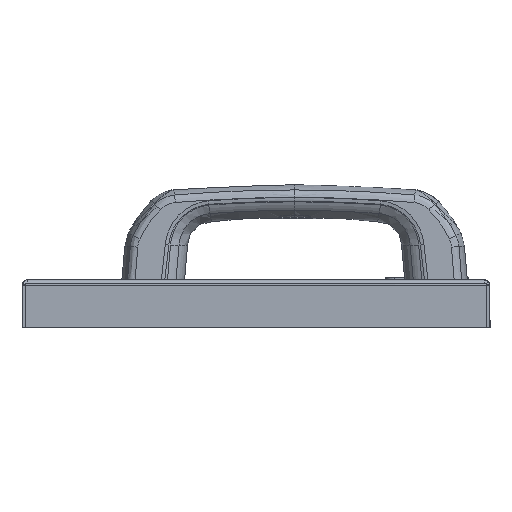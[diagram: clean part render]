
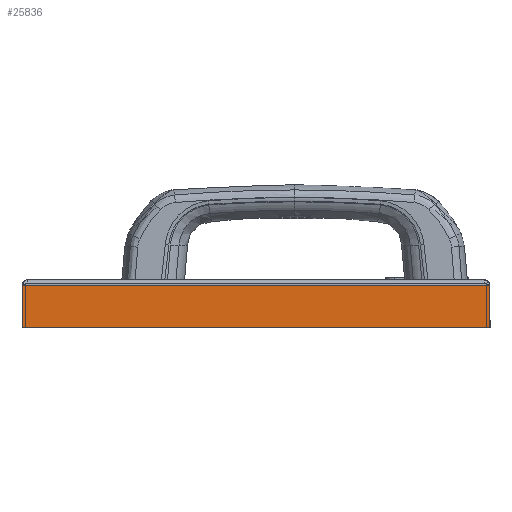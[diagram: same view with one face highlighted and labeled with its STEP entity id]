
A CAD part, left-side view. The second image highlights one B-rep face of the part: STEP entity #25836.
In plain terms, the highlighted planar face has unit normal (-1, 0, 0).
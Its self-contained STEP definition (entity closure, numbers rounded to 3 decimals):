
#21281=CARTESIAN_POINT(' ',(0.,197.,-2.3));
#21282=VERTEX_POINT(' ',#21281);
#21821=CARTESIAN_POINT(' ',(0.,197.,-2.3));
#21826=DIRECTION(' ',(0.,-1.,0.));
#21831=VECTOR(' ',#21826,1.);
#21836=LINE('',#21821,#21831);
#21841=CARTESIAN_POINT(' ',(0.,0.,-2.3));
#21842=VERTEX_POINT(' ',#21841);
#21846=EDGE_CURVE(' ',#21282,#21842,#21836,.T.);
#24436=CARTESIAN_POINT(' ',(0.,197.,-20.));
#24441=DIRECTION(' ',(0.,0.,1.));
#24446=VECTOR(' ',#24441,1.);
#24451=LINE('',#24436,#24446);
#24456=CARTESIAN_POINT(' ',(0.,197.,-20.));
#24457=VERTEX_POINT(' ',#24456);
#24461=EDGE_CURVE(' ',#24457,#21282,#24451,.T.);
#25726=DIRECTION(' ',(-1.,-0.,-0.));
#25731=CARTESIAN_POINT(' ',(0.,0.,-2.3));
#25736=DIRECTION(' ',(-0.,1.,0.));
#25741=AXIS2_PLACEMENT_3D(' ',#25731,#25726,#25736);
#25746=PLANE('NONE',#25741);
#25751=CARTESIAN_POINT(' ',(0.,0.,-20.));
#25756=DIRECTION(' ',(0.,0.,1.));
#25761=VECTOR(' ',#25756,1.);
#25766=LINE('',#25751,#25761);
#25771=CARTESIAN_POINT(' ',(0.,0.,-20.));
#25772=VERTEX_POINT(' ',#25771);
#25776=EDGE_CURVE(' ',#25772,#21842,#25766,.T.);
#25781=ORIENTED_EDGE(' ',*,*,#25776,.T.);
#25786=ORIENTED_EDGE(' ',*,*,#21846,.F.);
#25791=ORIENTED_EDGE(' ',*,*,#24461,.F.);
#25796=CARTESIAN_POINT(' ',(0.,197.,-20.));
#25801=DIRECTION(' ',(0.,-1.,0.));
#25806=VECTOR(' ',#25801,1.);
#25811=LINE('',#25796,#25806);
#25816=EDGE_CURVE(' ',#24457,#25772,#25811,.T.);
#25821=ORIENTED_EDGE(' ',*,*,#25816,.T.);
#25826=EDGE_LOOP(' ',(#25781,#25786,#25791,#25821));
#25831=FACE_OUTER_BOUND(' ',#25826,.T.);
#25836=ADVANCED_FACE('NONE',(#25831),#25746,.T.);
